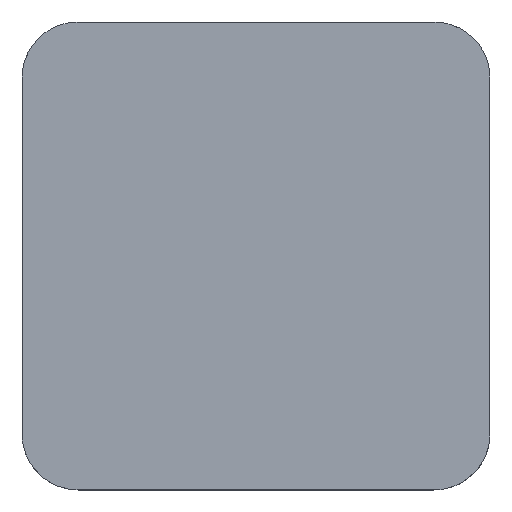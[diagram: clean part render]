
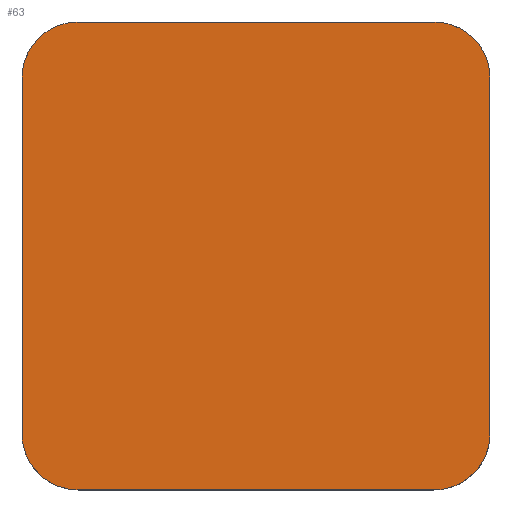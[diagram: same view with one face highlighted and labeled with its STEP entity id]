
A CAD part, top view. The second image highlights one B-rep face of the part: STEP entity #63.
In plain terms, the highlighted planar face has unit normal (0, 0, 1).
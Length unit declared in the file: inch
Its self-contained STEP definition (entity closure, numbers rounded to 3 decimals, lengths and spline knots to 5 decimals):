
#63=ADVANCED_FACE('',(#142),#143,.T.);
#142=FACE_OUTER_BOUND('',#250,.T.);
#143=PLANE('',#251);
#250=EDGE_LOOP('',(#375,#376,#377,#378,#379,#380,#381,#382));
#251=AXIS2_PLACEMENT_3D('',#383,#384,#385);
#375=ORIENTED_EDGE('',*,*,#610,.F.);
#376=ORIENTED_EDGE('',*,*,#605,.F.);
#377=ORIENTED_EDGE('',*,*,#611,.F.);
#378=ORIENTED_EDGE('',*,*,#612,.F.);
#379=ORIENTED_EDGE('',*,*,#613,.F.);
#380=ORIENTED_EDGE('',*,*,#614,.F.);
#381=ORIENTED_EDGE('',*,*,#615,.F.);
#382=ORIENTED_EDGE('',*,*,#596,.F.);
#383=CARTESIAN_POINT('',(0.62676,1.4637,0.075));
#384=DIRECTION('',(0.0,0.0,1.0));
#385=DIRECTION('',(1.0,0.0,0.0));
#596=EDGE_CURVE('',#709,#710,#711,.T.);
#605=EDGE_CURVE('',#724,#725,#726,.T.);
#610=EDGE_CURVE('',#725,#709,#733,.T.);
#611=EDGE_CURVE('',#734,#724,#735,.T.);
#612=EDGE_CURVE('',#736,#734,#737,.T.);
#613=EDGE_CURVE('',#738,#736,#739,.T.);
#614=EDGE_CURVE('',#740,#738,#741,.T.);
#615=EDGE_CURVE('',#710,#740,#742,.T.);
#709=VERTEX_POINT('',#870);
#710=VERTEX_POINT('',#871);
#711=B_SPLINE_CURVE_WITH_KNOTS('',3,(#872,#873,#874,#875),.UNSPECIFIED.,.F.,.F.,(4,4),(-1.0,-0.0),.UNSPECIFIED.);
#724=VERTEX_POINT('',#896);
#725=VERTEX_POINT('',#897);
#726=B_SPLINE_CURVE_WITH_KNOTS('',3,(#898,#899,#900,#901),.UNSPECIFIED.,.F.,.F.,(4,4),(-1.0,-0.0),.UNSPECIFIED.);
#733=LINE('',#913,#914);
#734=VERTEX_POINT('',#915);
#735=LINE('',#916,#917);
#736=VERTEX_POINT('',#918);
#737=B_SPLINE_CURVE_WITH_KNOTS('',3,(#919,#920,#921,#922),.UNSPECIFIED.,.F.,.F.,(4,4),(-1.0,-0.0),.UNSPECIFIED.);
#738=VERTEX_POINT('',#923);
#739=LINE('',#924,#925);
#740=VERTEX_POINT('',#926);
#741=B_SPLINE_CURVE_WITH_KNOTS('',3,(#927,#928,#929,#930),.UNSPECIFIED.,.F.,.F.,(4,4),(-1.0,-0.0),.UNSPECIFIED.);
#742=LINE('',#931,#932);
#870=CARTESIAN_POINT('',(1.42364,0.85809,0.075));
#871=CARTESIAN_POINT('',(1.23239,0.66683,0.075));
#872=CARTESIAN_POINT('',(1.42364,0.85809,0.075));
#873=CARTESIAN_POINT('',(1.42364,0.75245,0.075));
#874=CARTESIAN_POINT('',(1.33801,0.66683,0.075));
#875=CARTESIAN_POINT('',(1.23239,0.66683,0.075));
#896=CARTESIAN_POINT('',(1.23239,2.26058,0.075));
#897=CARTESIAN_POINT('',(1.42364,2.06933,0.075));
#898=CARTESIAN_POINT('',(1.23239,2.26058,0.075));
#899=CARTESIAN_POINT('',(1.33801,2.26058,0.075));
#900=CARTESIAN_POINT('',(1.42364,2.17495,0.075));
#901=CARTESIAN_POINT('',(1.42364,2.06933,0.075));
#913=CARTESIAN_POINT('',(1.42364,0.85809,0.075));
#914=VECTOR('',#1087,1.0);
#915=CARTESIAN_POINT('',(0.02114,2.26058,0.075));
#916=CARTESIAN_POINT('',(1.23239,2.26058,0.075));
#917=VECTOR('',#1088,1.0);
#918=CARTESIAN_POINT('',(-0.17011,2.06933,0.075));
#919=CARTESIAN_POINT('',(-0.17011,2.06933,0.075));
#920=CARTESIAN_POINT('',(-0.17011,2.17495,0.075));
#921=CARTESIAN_POINT('',(-0.08449,2.26058,0.075));
#922=CARTESIAN_POINT('',(0.02114,2.26058,0.075));
#923=CARTESIAN_POINT('',(-0.17011,0.85809,0.075));
#924=CARTESIAN_POINT('',(-0.17011,2.06933,0.075));
#925=VECTOR('',#1089,1.0);
#926=CARTESIAN_POINT('',(0.02114,0.66683,0.075));
#927=CARTESIAN_POINT('',(0.02114,0.66683,0.075));
#928=CARTESIAN_POINT('',(-0.08449,0.66683,0.075));
#929=CARTESIAN_POINT('',(-0.17011,0.75245,0.075));
#930=CARTESIAN_POINT('',(-0.17011,0.85809,0.075));
#931=CARTESIAN_POINT('',(0.02114,0.66683,0.075));
#932=VECTOR('',#1090,1.0);
#1087=DIRECTION('',(-0.0,-1.0,-0.0));
#1088=DIRECTION('',(1.0,0.0,0.0));
#1089=DIRECTION('',(0.0,1.0,0.0));
#1090=DIRECTION('',(-1.0,-0.0,-0.0));
